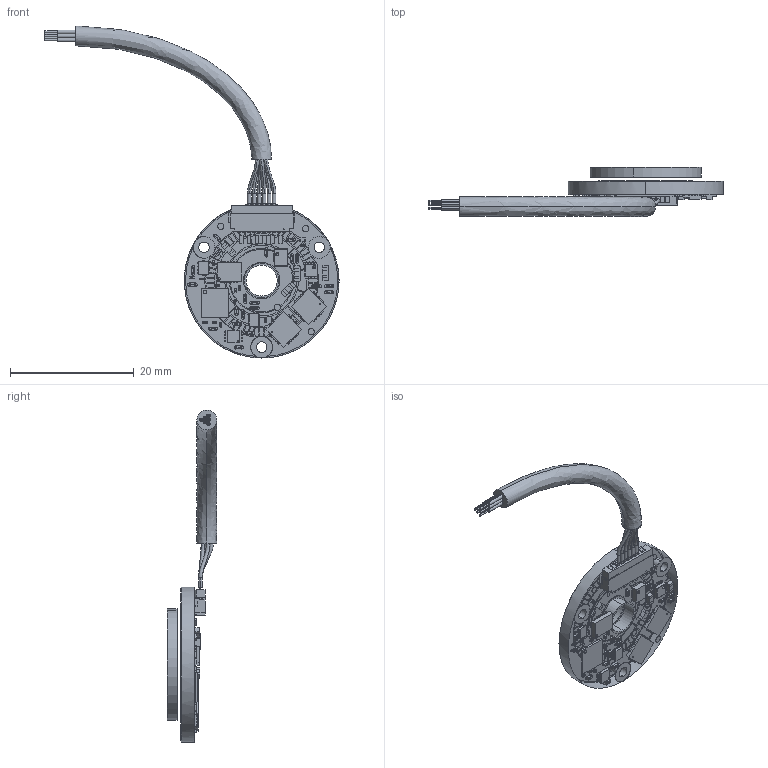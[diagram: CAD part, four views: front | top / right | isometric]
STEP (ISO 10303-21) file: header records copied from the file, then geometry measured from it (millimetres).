
FILE_DESCRIPTION (( 'STEP AP214' ), '1' );
FILE_NAME ('VLX-25 16-3 Hollow rotor.STEP', '2025-03-23T13:42:55', ( '' ), ( '' ), 'SwSTEP 2.0', 'SolidWorks 2022', '' );
FILE_SCHEMA (( 'AUTOMOTIVE_DESIGN' ));
Length unit declared in the file: millimetre
Products named in the file (7): VLX-25 16-3 Hollow rotor; PB-00557-Components_VLX without copper; EA-00557_VLX-25; DF52-10P-0.8C; VLP-25 Rotor_Midshaft custom; VLP-25 Tranceiver_PB-00557; VLP-25 cable
Assembly tree (6 placements, depth 3):
  VLX-25 16-3 Hollow rotor
    EA-00557_VLX-25
      VLP-25 Tranceiver_PB-00557
      PB-00557-Components_VLX without copper
    VLP-25 Rotor_Midshaft custom
    DF52-10P-0.8C
    VLP-25 cable
Bounding box: 47.5 x 7.97 x 53.62 mm (x, y, z)
Volume: 1741.4 mm3; surface area: 3030.8 mm2
Topology: 16 solids, 327 shells, 6869 faces, 17152 edges, 11289 vertices
Faces by surface type: plane 4340, cylinder 1187, bspline 1114, sphere 224, torus 4
Entity records: 333656 total; most frequent: CARTESIAN_POINT 101863, ORIENTED_EDGE 33440, DIRECTION 28584, EDGE_CURVE 16736, LINE 11972, VECTOR 11972, VERTEX_POINT 11097, AXIS2_PLACEMENT_3D 8306
